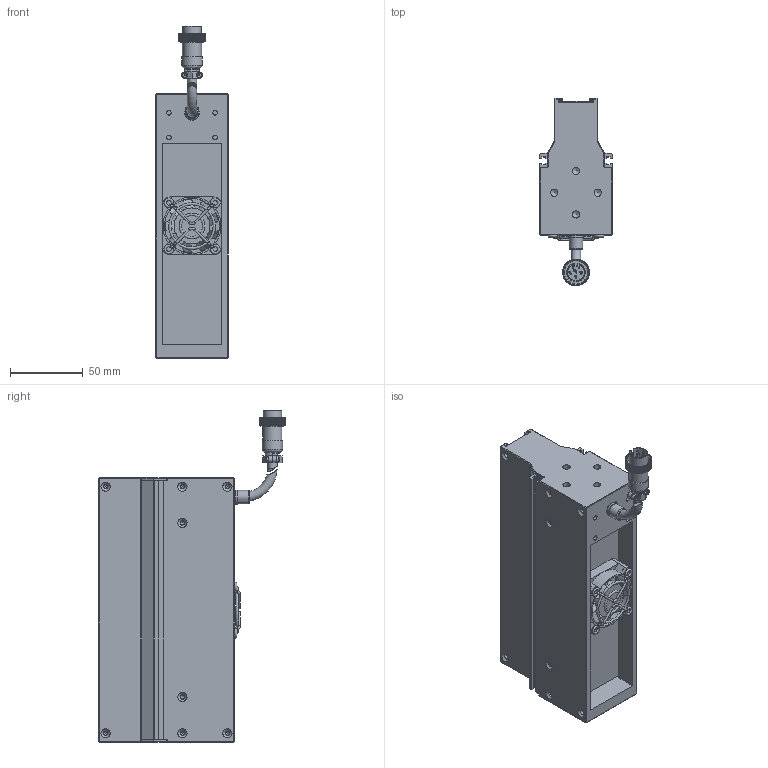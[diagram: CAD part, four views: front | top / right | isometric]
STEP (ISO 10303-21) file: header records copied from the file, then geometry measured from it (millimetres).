
FILE_DESCRIPTION (( 'STEP AP203' ), '1' );
FILE_NAME ('OPT-LSS182-R-V3.1U尨砩芞.STEP', '2025-01-20T08:13:01', ( 'USER' ), ( '' ), 'SwSTEP 2.0', 'SolidWorks 2016', '' );
FILE_SCHEMA (( 'CONFIG_CONTROL_DESIGN' ));
Products named in the file (2): OPT-LSS182-R-V3.1U尨砩芞
Bounding box: 50 x 129.15 x 228.83 mm (x, y, z)
Volume: 615522.3 mm3; surface area: 112445.7 mm2
Topology: 10 solids, 18 shells, 3506 faces, 7734 edges, 4311 vertices
Faces by surface type: bspline 2086, cylinder 692, plane 616, torus 63, cone 49
Full cylindrical faces by diameter (mm): 0.95 x6, 1.1 x2, 1.4 x2, 1.6 x4, 2 x5, 2.5 x16, 3.2 x8, 3.4 x16, 3.5 x4, 5 x8, 6.2 x4, 6.4 x3, 7.5 x1, 8.6 x1, 9.3 x1, 9.8 x1, 10 x1, 13.2 x1, 14 x1, 16.1 x1, 24.8 x1, 38 x1
Entity records: 118718 total; most frequent: CARTESIAN_POINT 60998, ORIENTED_EDGE 15028, EDGE_CURVE 7514, B_SPLINE_CURVE_WITH_KNOTS 5447, DIRECTION 5372, VERTEX_POINT 4258, EDGE_LOOP 3752, FACE_OUTER_BOUND 3620
